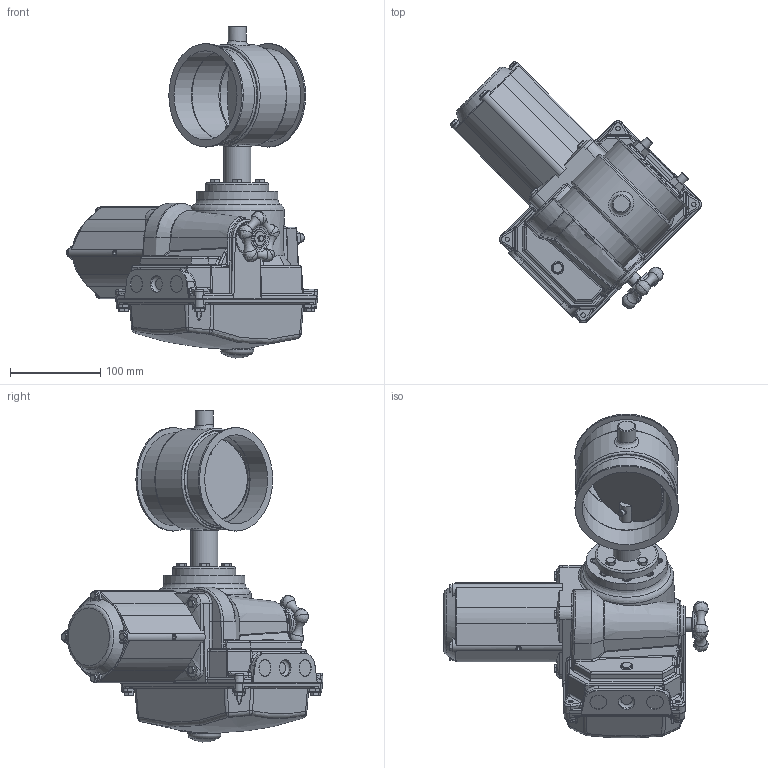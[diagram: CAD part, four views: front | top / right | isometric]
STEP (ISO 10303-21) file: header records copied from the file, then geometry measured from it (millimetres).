
FILE_DESCRIPTION((''),'2;1');
FILE_NAME('U:\Wolfgang\Marcel-3D\fertig\Kapitel 8\1021216.stp','2011-05-03T15:05:30',('TK1'),(''),'Autodesk Inventor 2010','Autodesk Inventor 2010','');
FILE_SCHEMA(('AUTOMOTIVE_DESIGN { 1 0 10303 214 1 1 1 1 }'));
Length unit declared in the file: millimetre
Products named in the file (8): 1021216; BuchseD15 70-50; 1021210-1; Bolzen D15; Scheibe100b; DIN 6912 M6 x 16; DIN EN ISO 4018 M6x25; LEB45cc
Assembly tree (12 placements, depth 2):
  1021216
    BuchseD15 70-50
    1021210-1
    Bolzen D15  x2
    Scheibe100b
    DIN 6912 M6 x 16  x2
    DIN EN ISO 4018 M6x25  x4
    LEB45cc
Bounding box: 279.38 x 290.96 x 368.82 mm (x, y, z)
Volume: 4251777.3 mm3; surface area: 382776 mm2
Topology: 12 solids, 12 shells, 1498 faces, 3763 edges, 2360 vertices
Faces by surface type: plane 754, cylinder 291, bspline 241, torus 86, cone 81, sphere 45
Full cylindrical faces by diameter (mm): 3 x2, 5 x4, 5.1 x8, 6 x14, 6.9 x8, 10 x6, 15 x7, 15.5 x1, 16 x1, 17 x1, 18.6 x2, 20 x1, 24 x1, 30 x2, 35 x1, 42 x1, 70 x1, 99 x3, 100 x1, 103 x2, 108 x1, 109 x1, 113 x1, 115 x2
Entity records: 51812 total; most frequent: CARTESIAN_POINT 19446, ORIENTED_EDGE 6654, DIRECTION 5846, EDGE_CURVE 3327, VERTEX_POINT 2196, AXIS2_PLACEMENT_3D 2062, VECTOR 1722, LINE 1722
